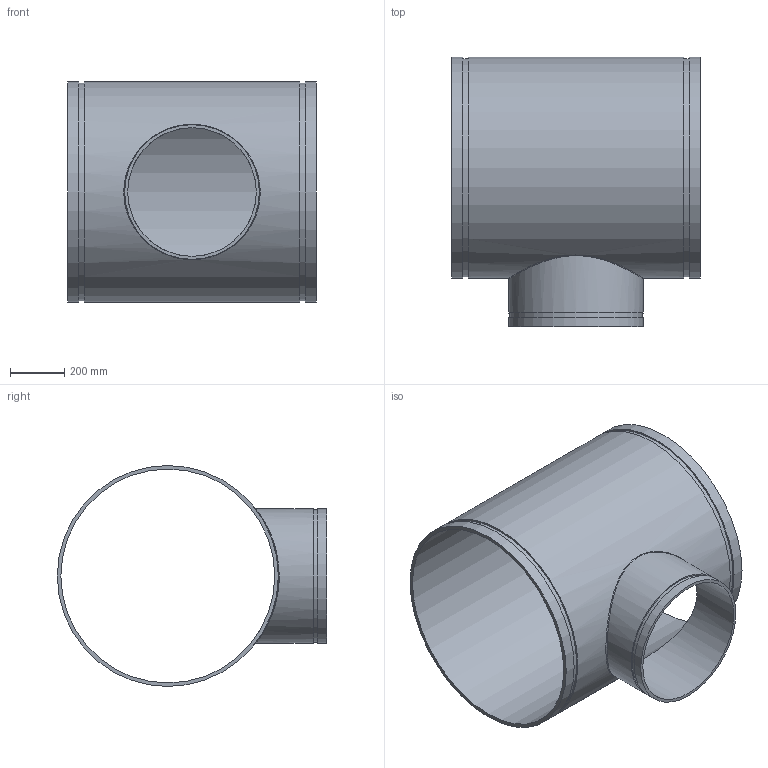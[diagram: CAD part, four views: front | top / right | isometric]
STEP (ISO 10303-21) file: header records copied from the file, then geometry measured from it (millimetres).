
FILE_DESCRIPTION(/* description */ ('VIC REDUCING TEE No 25-C','CAx-IF Rec.Pracs.---Representation and Presentation of Product Manufacturing Information (PMI)---4.0---2014-10-13'),/* implementation_level */ '2;1');
FILE_NAME(/* name */ 'C:\Users\Vjadhav\AppData\Roaming\Autodesk\ApplicationPlugins\Back Up\Victaulic_AWWA_Tee Reducing_No 25-C (DRG)\Victaulic_AWWA_Tee Reducing_No 25-C (DRG)_30.0x18.0 (750x450).stp',/* time_stamp */ '2020-08-18T18:19:21+06:00',/* author */ ('CORINNE GRAY'),/* organization */ ('Victaulic'),/* preprocessor_version */ 'ST-DEVELOPER v17.2',/* originating_system */ 'Autodesk Inventor 2019',/* authorisation */ '');
FILE_SCHEMA (('AP242_MANAGED_MODEL_BASED_3D_ENGINEERING_MIM_LF { 1 0 10303 442 1 1 4 }'));
Length unit declared in the file: inch
Products named in the file (1): 25C-30.0x18.0
Bounding box: 914.4 x 990.6 x 812.8 mm (x, y, z)
Volume: 30394053.4 mm3; surface area: 5039806.8 mm2
Topology: 1 solids, 1 shells, 20 faces, 44 edges, 33 vertices
Faces by surface type: cylinder 10, plane 9, bspline 1
Full cylindrical faces by diameter (mm): 472.948 x1, 485.775 x1, 495.3 x2, 786.892 x1, 801.37 x2, 812.8 x3
Entity records: 1114 total; most frequent: CARTESIAN_POINT 490, DIRECTION 135, ORIENTED_EDGE 90, AXIS2_PLACEMENT_3D 62, EDGE_CURVE 45, VERTEX_POINT 34, EDGE_LOOP 31, CIRCLE 29
